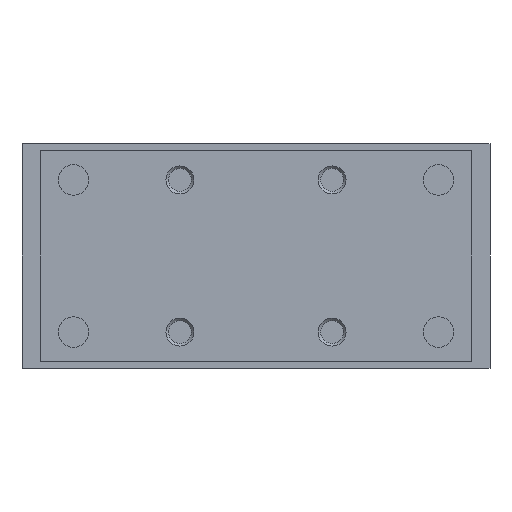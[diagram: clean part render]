
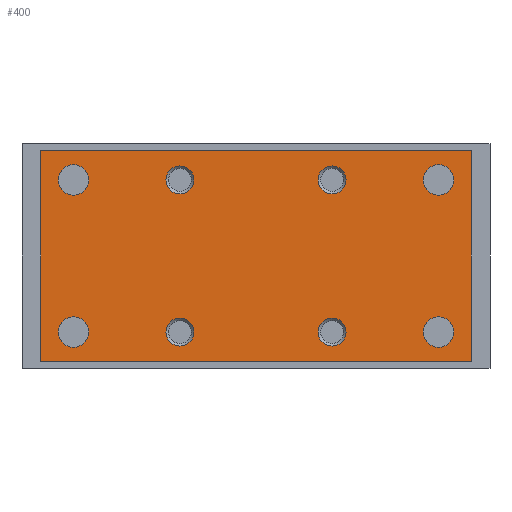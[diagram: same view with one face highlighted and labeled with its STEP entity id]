
A CAD part, left-side view. The second image highlights one B-rep face of the part: STEP entity #400.
In plain terms, the highlighted planar face has unit normal (-1, 0, 0).
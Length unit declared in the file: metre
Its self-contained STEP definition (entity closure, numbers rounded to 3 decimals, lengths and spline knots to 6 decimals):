
#400 = ADVANCED_FACE( '', ( #974, #975, #976, #977, #978, #979, #980, #981, #982 ), #983, .T. );
#974 = FACE_BOUND( '', #1794, .T. );
#975 = FACE_BOUND( '', #1795, .T. );
#976 = FACE_BOUND( '', #1796, .T. );
#977 = FACE_BOUND( '', #1797, .T. );
#978 = FACE_BOUND( '', #1798, .T. );
#979 = FACE_BOUND( '', #1799, .T. );
#980 = FACE_BOUND( '', #1800, .T. );
#981 = FACE_BOUND( '', #1801, .T. );
#982 = FACE_OUTER_BOUND( '', #1802, .T. );
#983 = PLANE( '', #1803 );
#1794 = EDGE_LOOP( '', ( #2866 ) );
#1795 = EDGE_LOOP( '', ( #2867 ) );
#1796 = EDGE_LOOP( '', ( #2868 ) );
#1797 = EDGE_LOOP( '', ( #2869 ) );
#1798 = EDGE_LOOP( '', ( #2870 ) );
#1799 = EDGE_LOOP( '', ( #2871 ) );
#1800 = EDGE_LOOP( '', ( #2872 ) );
#1801 = EDGE_LOOP( '', ( #2873 ) );
#1802 = EDGE_LOOP( '', ( #2874, #2875, #2876, #2877 ) );
#1803 = AXIS2_PLACEMENT_3D( '', #2878, #2879, #2880 );
#2866 = ORIENTED_EDGE( '', *, *, #4053, .F. );
#2867 = ORIENTED_EDGE( '', *, *, #3968, .F. );
#2868 = ORIENTED_EDGE( '', *, *, #3921, .F. );
#2869 = ORIENTED_EDGE( '', *, *, #4054, .F. );
#2870 = ORIENTED_EDGE( '', *, *, #4055, .T. );
#2871 = ORIENTED_EDGE( '', *, *, #4056, .F. );
#2872 = ORIENTED_EDGE( '', *, *, #4057, .F. );
#2873 = ORIENTED_EDGE( '', *, *, #4058, .T. );
#2874 = ORIENTED_EDGE( '', *, *, #4059, .T. );
#2875 = ORIENTED_EDGE( '', *, *, #4060, .T. );
#2876 = ORIENTED_EDGE( '', *, *, #4061, .T. );
#2877 = ORIENTED_EDGE( '', *, *, #3957, .T. );
#2878 = CARTESIAN_POINT( '', ( -0.06225, -0.046, -0.0015 ) );
#2879 = DIRECTION( '', ( -1., 0., 0. ) );
#2880 = DIRECTION( '', ( 0., 0., 1. ) );
#3921 = EDGE_CURVE( '', #4554, #4554, #4555, .T. );
#3957 = EDGE_CURVE( '', #4612, #4610, #4613, .T. );
#3968 = EDGE_CURVE( '', #4630, #4630, #4631, .T. );
#4053 = EDGE_CURVE( '', #4755, #4755, #4756, .T. );
#4054 = EDGE_CURVE( '', #4757, #4757, #4758, .T. );
#4055 = EDGE_CURVE( '', #4759, #4759, #4760, .T. );
#4056 = EDGE_CURVE( '', #4761, #4761, #4762, .T. );
#4057 = EDGE_CURVE( '', #4763, #4763, #4764, .T. );
#4058 = EDGE_CURVE( '', #4765, #4765, #4766, .T. );
#4059 = EDGE_CURVE( '', #4610, #4767, #4768, .T. );
#4060 = EDGE_CURVE( '', #4767, #4769, #4770, .T. );
#4061 = EDGE_CURVE( '', #4769, #4612, #4771, .T. );
#4554 = VERTEX_POINT( '', #5425 );
#4555 = CIRCLE( '', #5426, 0.00325 );
#4610 = VERTEX_POINT( '', #5494 );
#4612 = VERTEX_POINT( '', #5497 );
#4613 = LINE( '', #5498, #5499 );
#4630 = VERTEX_POINT( '', #5520 );
#4631 = CIRCLE( '', #5521, 0.00325 );
#4755 = VERTEX_POINT( '', #5768 );
#4756 = CIRCLE( '', #5769, 0.00325 );
#4757 = VERTEX_POINT( '', #5770 );
#4758 = CIRCLE( '', #5771, 0.00325 );
#4759 = VERTEX_POINT( '', #5772 );
#4760 = CIRCLE( '', #5773, 0.003 );
#4761 = VERTEX_POINT( '', #5774 );
#4762 = CIRCLE( '', #5775, 0.003 );
#4763 = VERTEX_POINT( '', #5776 );
#4764 = CIRCLE( '', #5777, 0.003 );
#4765 = VERTEX_POINT( '', #5778 );
#4766 = CIRCLE( '', #5779, 0.003 );
#4767 = VERTEX_POINT( '', #5780 );
#4768 = LINE( '', #5781, #5782 );
#4769 = VERTEX_POINT( '', #5783 );
#4770 = LINE( '', #5784, #5785 );
#4771 = LINE( '', #5786, #5787 );
#5425 = CARTESIAN_POINT( '', ( -0.06225, -0.04225, -0.00775 ) );
#5426 = AXIS2_PLACEMENT_3D( '', #6415, #6416, #6417 );
#5494 = CARTESIAN_POINT( '', ( -0.06225, -0.046, -0.0465 ) );
#5497 = CARTESIAN_POINT( '', ( -0.06225, 0.046, -0.0465 ) );
#5498 = CARTESIAN_POINT( '', ( -0.06225, 0.046, -0.0465 ) );
#5499 = VECTOR( '', #6465, 1. );
#5520 = CARTESIAN_POINT( '', ( -0.06225, 0.03575, -0.04025 ) );
#5521 = AXIS2_PLACEMENT_3D( '', #6482, #6483, #6484 );
#5768 = CARTESIAN_POINT( '', ( -0.06225, -0.04225, -0.04025 ) );
#5769 = AXIS2_PLACEMENT_3D( '', #6581, #6582, #6583 );
#5770 = CARTESIAN_POINT( '', ( -0.06225, 0.03575, -0.00775 ) );
#5771 = AXIS2_PLACEMENT_3D( '', #6584, #6585, #6586 );
#5772 = CARTESIAN_POINT( '', ( -0.06225, -0.01625, -0.03725 ) );
#5773 = AXIS2_PLACEMENT_3D( '', #6587, #6588, #6589 );
#5774 = CARTESIAN_POINT( '', ( -0.06225, 0.01625, -0.03725 ) );
#5775 = AXIS2_PLACEMENT_3D( '', #6590, #6591, #6592 );
#5776 = CARTESIAN_POINT( '', ( -0.06225, -0.01625, -0.01075 ) );
#5777 = AXIS2_PLACEMENT_3D( '', #6593, #6594, #6595 );
#5778 = CARTESIAN_POINT( '', ( -0.06225, 0.01625, -0.01075 ) );
#5779 = AXIS2_PLACEMENT_3D( '', #6596, #6597, #6598 );
#5780 = CARTESIAN_POINT( '', ( -0.06225, -0.046, -0.0015 ) );
#5781 = CARTESIAN_POINT( '', ( -0.06225, -0.046, -0.0465 ) );
#5782 = VECTOR( '', #6599, 1. );
#5783 = CARTESIAN_POINT( '', ( -0.06225, 0.046, -0.0015 ) );
#5784 = CARTESIAN_POINT( '', ( -0.06225, -0.046, -0.0015 ) );
#5785 = VECTOR( '', #6600, 1. );
#5786 = CARTESIAN_POINT( '', ( -0.06225, 0.046, -0.0015 ) );
#5787 = VECTOR( '', #6601, 1. );
#6415 = CARTESIAN_POINT( '', ( -0.06225, -0.039, -0.00775 ) );
#6416 = DIRECTION( '', ( -1., 0., 0. ) );
#6417 = DIRECTION( '', ( 0., -1., 0. ) );
#6465 = DIRECTION( '', ( 0., -1., 0. ) );
#6482 = CARTESIAN_POINT( '', ( -0.06225, 0.039, -0.04025 ) );
#6483 = DIRECTION( '', ( -1., 0., 0. ) );
#6484 = DIRECTION( '', ( 0., -1., 0. ) );
#6581 = CARTESIAN_POINT( '', ( -0.06225, -0.039, -0.04025 ) );
#6582 = DIRECTION( '', ( -1., 0., 0. ) );
#6583 = DIRECTION( '', ( 0., -1., 0. ) );
#6584 = CARTESIAN_POINT( '', ( -0.06225, 0.039, -0.00775 ) );
#6585 = DIRECTION( '', ( -1., 0., 0. ) );
#6586 = DIRECTION( '', ( 0., -1., 0. ) );
#6587 = CARTESIAN_POINT( '', ( -0.06225, -0.01625, -0.04025 ) );
#6588 = DIRECTION( '', ( 1., 0., 0. ) );
#6589 = DIRECTION( '', ( 0., 0., 1. ) );
#6590 = CARTESIAN_POINT( '', ( -0.06225, 0.01625, -0.04025 ) );
#6591 = DIRECTION( '', ( -1., 0., 0. ) );
#6592 = DIRECTION( '', ( 0., 0., 1. ) );
#6593 = CARTESIAN_POINT( '', ( -0.06225, -0.01625, -0.00775 ) );
#6594 = DIRECTION( '', ( -1., 0., 0. ) );
#6595 = DIRECTION( '', ( 0., 0., -1. ) );
#6596 = CARTESIAN_POINT( '', ( -0.06225, 0.01625, -0.00775 ) );
#6597 = DIRECTION( '', ( 1., 0., 0. ) );
#6598 = DIRECTION( '', ( 0., 0., -1. ) );
#6599 = DIRECTION( '', ( 0., 0., 1. ) );
#6600 = DIRECTION( '', ( 0., 1., 0. ) );
#6601 = DIRECTION( '', ( 0., 0., -1. ) );
